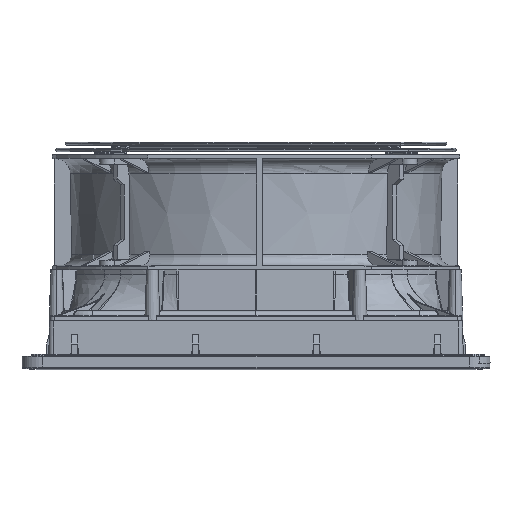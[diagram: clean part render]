
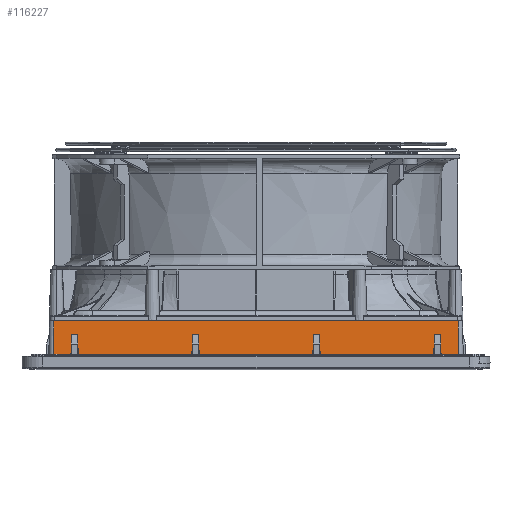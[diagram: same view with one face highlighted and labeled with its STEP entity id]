
A CAD part, left-side view. The second image highlights one B-rep face of the part: STEP entity #116227.
In plain terms, the highlighted planar face has unit normal (-1, -0.026, 0) by its records, which use the part's own axes.
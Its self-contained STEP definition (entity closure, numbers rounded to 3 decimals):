
#73583=CARTESIAN_POINT('',(143.306,0.,
140.307));
#73585=CARTESIAN_POINT('',(143.306,0.,
-140.307));
#75923=CARTESIAN_POINT('',(143.969,-25.331,
-140.97));
#83084=DIRECTION('',(0.,0.,1.));
#83085=VECTOR('',#83084,11.525);
#83086=CARTESIAN_POINT('',(143.306,0.,
-97.762));
#83087=LINE('',#83086,#83085);
#83088=DIRECTION('',(0.,0.,1.));
#83089=VECTOR('',#83088,172.475);
#83090=CARTESIAN_POINT('',(143.306,0.,
-86.238));
#83091=LINE('',#83090,#83089);
#83092=DIRECTION('',(0.,0.,1.));
#83093=VECTOR('',#83092,11.525);
#83094=CARTESIAN_POINT('',(143.306,0.,
86.238));
#83095=LINE('',#83094,#83093);
#83096=DIRECTION('',(0.,0.,1.));
#83097=VECTOR('',#83096,42.545);
#83098=CARTESIAN_POINT('',(143.306,0.,
97.762));
#83099=LINE('',#83098,#83097);
#83100=DIRECTION('',(0.026,-0.999,0.026));
#83101=VECTOR('',#83100,25.349);
#83102=CARTESIAN_POINT('',(143.306,0.,
140.307));
#83103=LINE('',#83102,#83101);
#83104=DIRECTION('',(0.,0.,-1.));
#83105=VECTOR('',#83104,12.422);
#83106=CARTESIAN_POINT('',(143.969,-25.331,
140.97));
#83107=LINE('',#83106,#83105);
#83108=DIRECTION('',(-0.026,0.999,-0.024));
#83109=VECTOR('',#83108,15.841);
#83110=CARTESIAN_POINT('',(143.969,-25.331,
128.549));
#83111=LINE('',#83110,#83109);
#83112=DIRECTION('',(0.,0.,-1.));
#83113=VECTOR('',#83112,4.34);
#83114=CARTESIAN_POINT('',(143.555,-9.5,
128.17));
#83115=LINE('',#83114,#83113);
#83116=DIRECTION('',(0.026,-0.999,-0.024));
#83117=VECTOR('',#83116,15.841);
#83118=CARTESIAN_POINT('',(143.555,-9.5,
123.83));
#83119=LINE('',#83118,#83117);
#83120=DIRECTION('',(-0.026,0.999,-0.024));
#83121=VECTOR('',#83120,15.841);
#83122=CARTESIAN_POINT('',(143.969,-25.331,
44.549));
#83123=LINE('',#83122,#83121);
#83124=DIRECTION('',(0.,0.,-1.));
#83125=VECTOR('',#83124,4.34);
#83126=CARTESIAN_POINT('',(143.555,-9.5,
44.17));
#83127=LINE('',#83126,#83125);
#83128=DIRECTION('',(0.026,-0.999,-0.024));
#83129=VECTOR('',#83128,15.841);
#83130=CARTESIAN_POINT('',(143.555,-9.5,
39.83));
#83131=LINE('',#83130,#83129);
#83132=DIRECTION('',(-0.026,0.999,-0.024));
#83133=VECTOR('',#83132,15.841);
#83134=CARTESIAN_POINT('',(143.969,-25.331,
-39.451));
#83135=LINE('',#83134,#83133);
#83136=DIRECTION('',(0.,0.,-1.));
#83137=VECTOR('',#83136,4.34);
#83138=CARTESIAN_POINT('',(143.555,-9.5,
-39.83));
#83139=LINE('',#83138,#83137);
#83140=DIRECTION('',(0.026,-0.999,-0.024));
#83141=VECTOR('',#83140,15.841);
#83142=CARTESIAN_POINT('',(143.555,-9.5,
-44.17));
#83143=LINE('',#83142,#83141);
#83144=DIRECTION('',(-0.026,0.999,-0.024));
#83145=VECTOR('',#83144,15.841);
#83146=CARTESIAN_POINT('',(143.969,-25.331,
-123.451));
#83147=LINE('',#83146,#83145);
#83148=DIRECTION('',(0.,0.,-1.));
#83149=VECTOR('',#83148,4.34);
#83150=CARTESIAN_POINT('',(143.555,-9.5,
-123.83));
#83151=LINE('',#83150,#83149);
#83152=DIRECTION('',(0.026,-0.999,-0.024));
#83153=VECTOR('',#83152,15.841);
#83154=CARTESIAN_POINT('',(143.555,-9.5,
-128.17));
#83155=LINE('',#83154,#83153);
#83156=DIRECTION('',(0.,0.,-1.));
#83157=VECTOR('',#83156,12.422);
#83158=CARTESIAN_POINT('',(143.969,-25.331,
-128.549));
#83159=LINE('',#83158,#83157);
#83160=DIRECTION('',(-0.026,0.999,0.026));
#83161=VECTOR('',#83160,25.349);
#83162=CARTESIAN_POINT('',(143.969,-25.331,
-140.97));
#83163=LINE('',#83162,#83161);
#83164=DIRECTION('',(0.,0.,1.));
#83165=VECTOR('',#83164,42.545);
#83166=CARTESIAN_POINT('',(143.306,0.,
-140.307));
#83167=LINE('',#83166,#83165);
#83344=DIRECTION('',(0.,0.,1.));
#83345=VECTOR('',#83344,78.903);
#83346=CARTESIAN_POINT('',(143.969,-25.331,
-123.451));
#83347=LINE('',#83346,#83345);
#83356=DIRECTION('',(0.,0.,1.));
#83357=VECTOR('',#83356,78.903);
#83358=CARTESIAN_POINT('',(143.969,-25.331,
-39.451));
#83359=LINE('',#83358,#83357);
#83376=DIRECTION('',(0.,0.,1.));
#83377=VECTOR('',#83376,78.903);
#83378=CARTESIAN_POINT('',(143.969,-25.331,
44.549));
#83379=LINE('',#83378,#83377);
#97119=VERTEX_POINT('',#73583);
#97120=VERTEX_POINT('',#73585);
#97415=CARTESIAN_POINT('',(143.306,0.,
97.762));
#97416=VERTEX_POINT('',#97415);
#97417=CARTESIAN_POINT('',(143.306,0.,
86.238));
#97418=VERTEX_POINT('',#97417);
#97419=CARTESIAN_POINT('',(143.306,0.,
-86.238));
#97420=VERTEX_POINT('',#97419);
#97421=CARTESIAN_POINT('',(143.306,0.,
-97.762));
#97422=VERTEX_POINT('',#97421);
#98603=VERTEX_POINT('',#75923);
#99684=CARTESIAN_POINT('',(143.555,-9.5,
128.17));
#99685=VERTEX_POINT('',#99684);
#99686=CARTESIAN_POINT('',(143.969,-25.331,
128.549));
#99687=VERTEX_POINT('',#99686);
#99705=CARTESIAN_POINT('',(143.555,-9.5,
-128.17));
#99706=CARTESIAN_POINT('',(143.969,-25.331,
-128.549));
#99707=VERTEX_POINT('',#99705);
#99708=VERTEX_POINT('',#99706);
#99709=CARTESIAN_POINT('',(143.969,-25.331,
140.97));
#99710=VERTEX_POINT('',#99709);
#99711=CARTESIAN_POINT('',(143.555,-9.5,
123.83));
#99712=VERTEX_POINT('',#99711);
#99713=CARTESIAN_POINT('',(143.969,-25.331,
123.451));
#99714=VERTEX_POINT('',#99713);
#99715=CARTESIAN_POINT('',(143.969,-25.331,
44.549));
#99716=VERTEX_POINT('',#99715);
#99717=CARTESIAN_POINT('',(143.555,-9.5,
44.17));
#99718=VERTEX_POINT('',#99717);
#99719=CARTESIAN_POINT('',(143.555,-9.5,
39.83));
#99720=VERTEX_POINT('',#99719);
#99721=CARTESIAN_POINT('',(143.969,-25.331,
39.451));
#99722=VERTEX_POINT('',#99721);
#99723=CARTESIAN_POINT('',(143.969,-25.331,
-39.451));
#99724=VERTEX_POINT('',#99723);
#99725=CARTESIAN_POINT('',(143.555,-9.5,
-39.83));
#99726=VERTEX_POINT('',#99725);
#99727=CARTESIAN_POINT('',(143.555,-9.5,
-44.17));
#99728=VERTEX_POINT('',#99727);
#99729=CARTESIAN_POINT('',(143.969,-25.331,
-44.549));
#99730=VERTEX_POINT('',#99729);
#99731=CARTESIAN_POINT('',(143.969,-25.331,
-123.451));
#99732=VERTEX_POINT('',#99731);
#99733=CARTESIAN_POINT('',(143.555,-9.5,
-123.83));
#99734=VERTEX_POINT('',#99733);
#116180=CARTESIAN_POINT('',(143.306,0.,140.97));
#116181=DIRECTION('',(-1.,-0.026,0.));
#116182=DIRECTION('',(0.026,-1.,0.));
#116183=AXIS2_PLACEMENT_3D('',#116180,#116181,#116182);
#116184=PLANE('',#116183);
#116185=ORIENTED_EDGE('',*,*,#102303,.T.);
#116186=ORIENTED_EDGE('',*,*,#102301,.T.);
#116187=ORIENTED_EDGE('',*,*,#102299,.T.);
#116188=ORIENTED_EDGE('',*,*,#102297,.T.);
#116190=ORIENTED_EDGE('',*,*,#116189,.T.);
#116192=ORIENTED_EDGE('',*,*,#116191,.T.);
#116193=ORIENTED_EDGE('',*,*,#116000,.T.);
#116195=ORIENTED_EDGE('',*,*,#116194,.T.);
#116197=ORIENTED_EDGE('',*,*,#116196,.T.);
#116199=ORIENTED_EDGE('',*,*,#116198,.F.);
#116201=ORIENTED_EDGE('',*,*,#116200,.T.);
#116203=ORIENTED_EDGE('',*,*,#116202,.T.);
#116205=ORIENTED_EDGE('',*,*,#116204,.T.);
#116207=ORIENTED_EDGE('',*,*,#116206,.F.);
#116209=ORIENTED_EDGE('',*,*,#116208,.T.);
#116211=ORIENTED_EDGE('',*,*,#116210,.T.);
#116213=ORIENTED_EDGE('',*,*,#116212,.T.);
#116215=ORIENTED_EDGE('',*,*,#116214,.F.);
#116217=ORIENTED_EDGE('',*,*,#116216,.T.);
#116219=ORIENTED_EDGE('',*,*,#116218,.T.);
#116220=ORIENTED_EDGE('',*,*,#116169,.T.);
#116222=ORIENTED_EDGE('',*,*,#116221,.T.);
#116223=ORIENTED_EDGE('',*,*,#103855,.T.);
#116224=ORIENTED_EDGE('',*,*,#102305,.T.);
#116225=EDGE_LOOP('',(#116185,#116186,#116187,#116188,#116190,#116192,#116193,
#116195,#116197,#116199,#116201,#116203,#116205,#116207,#116209,#116211,#116213,
#116215,#116217,#116219,#116220,#116222,#116223,#116224));
#116226=FACE_OUTER_BOUND('',#116225,.F.);
#116227=ADVANCED_FACE('',(#116226),#116184,.T.);
#102297=EDGE_CURVE('',#97416,#97119,#83099,.T.);
#102299=EDGE_CURVE('',#97418,#97416,#83095,.T.);
#102301=EDGE_CURVE('',#97420,#97418,#83091,.T.);
#102303=EDGE_CURVE('',#97422,#97420,#83087,.T.);
#102305=EDGE_CURVE('',#97120,#97422,#83167,.T.);
#103855=EDGE_CURVE('',#98603,#97120,#83163,.T.);
#116000=EDGE_CURVE('',#99687,#99685,#83111,.T.);
#116169=EDGE_CURVE('',#99707,#99708,#83155,.T.);
#116189=EDGE_CURVE('',#97119,#99710,#83103,.T.);
#116191=EDGE_CURVE('',#99710,#99687,#83107,.T.);
#116194=EDGE_CURVE('',#99685,#99712,#83115,.T.);
#116196=EDGE_CURVE('',#99712,#99714,#83119,.T.);
#116198=EDGE_CURVE('',#99716,#99714,#83379,.T.);
#116200=EDGE_CURVE('',#99716,#99718,#83123,.T.);
#116202=EDGE_CURVE('',#99718,#99720,#83127,.T.);
#116204=EDGE_CURVE('',#99720,#99722,#83131,.T.);
#116206=EDGE_CURVE('',#99724,#99722,#83359,.T.);
#116208=EDGE_CURVE('',#99724,#99726,#83135,.T.);
#116210=EDGE_CURVE('',#99726,#99728,#83139,.T.);
#116212=EDGE_CURVE('',#99728,#99730,#83143,.T.);
#116214=EDGE_CURVE('',#99732,#99730,#83347,.T.);
#116216=EDGE_CURVE('',#99732,#99734,#83147,.T.);
#116218=EDGE_CURVE('',#99734,#99707,#83151,.T.);
#116221=EDGE_CURVE('',#99708,#98603,#83159,.T.);
